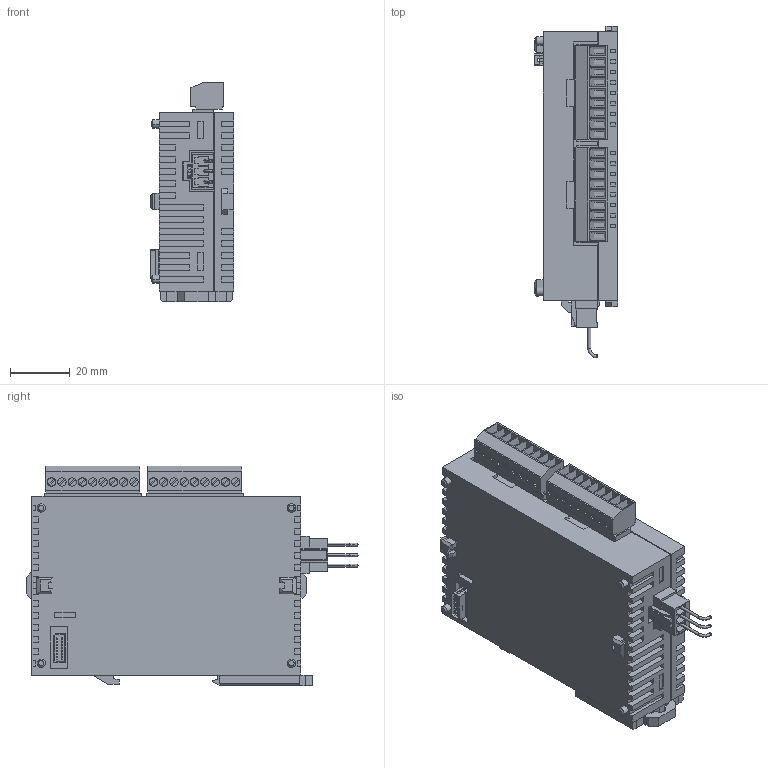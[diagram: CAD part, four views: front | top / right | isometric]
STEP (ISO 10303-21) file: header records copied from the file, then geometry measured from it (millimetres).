
FILE_DESCRIPTION (( 'STEP AP203' ), '1' );
FILE_NAME ('afp0re16rs.STEP', '2013-06-28T05:22:15', ( 'sunx' ), ( 'sunx' ), 'SwSTEP 2.0', 'SolidWorks 2010', '' );
FILE_SCHEMA (( 'CONFIG_CONTROL_DESIGN' ));
Length unit declared in the file: millimetre
Products named in the file (1): afp0re16rs
Bounding box: 28 x 111.2 x 73.45 mm (x, y, z)
Volume: 140513.9 mm3; surface area: 27453.1 mm2
Topology: 1 solids, 1 shells, 1042 faces, 2773 edges, 1828 vertices
Faces by surface type: plane 931, cylinder 81, bspline 16, cone 8, torus 6
Entity records: 32142 total; most frequent: CARTESIAN_POINT 5884, ORIENTED_EDGE 5546, DIRECTION 5083, EDGE_CURVE 2773, VECTOR 2517, LINE 2517, VERTEX_POINT 1828, AXIS2_PLACEMENT_3D 1283
